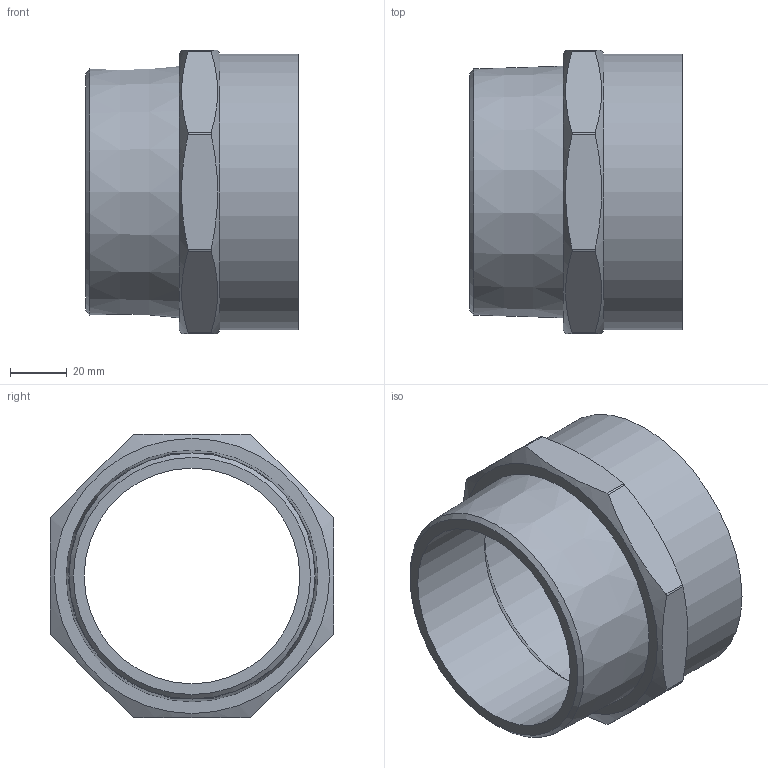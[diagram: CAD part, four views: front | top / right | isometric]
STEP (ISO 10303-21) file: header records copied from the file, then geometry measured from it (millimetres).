
FILE_DESCRIPTION((''),'2;1');
FILE_NAME('\\Lg50001\Groups\SANHA Legnica\Engineering\Public\RYSUNKI\SANHA POLSKA\4243G\step\14243_89-3(3).stp','2008-08-27T13:05:50',('pajchrowski'),(''),'Autodesk Inventor 2008','Autodesk Inventor 2008','');
FILE_SCHEMA(('AUTOMOTIVE_DESIGN { 1 0 10303 214 1 1 1 1 }'));
Length unit declared in the file: millimetre
Products named in the file (1): 14243_89-3(3)
Bounding box: 75 x 99.85 x 99.85 mm (x, y, z)
Volume: 114593.3 mm3; surface area: 47342.7 mm2
Topology: 1 solids, 1 shells, 28 faces, 69 edges, 45 vertices
Faces by surface type: plane 12, cylinder 11, cone 5
Full cylindrical faces by diameter (mm): 76 x1, 89.115 x1, 97.25 x1
Entity records: 792 total; most frequent: CARTESIAN_POINT 163, DIRECTION 128, ORIENTED_EDGE 118, EDGE_CURVE 59, AXIS2_PLACEMENT_3D 56, VERTEX_POINT 43, EDGE_LOOP 40, FACE_OUTER_BOUND 28
